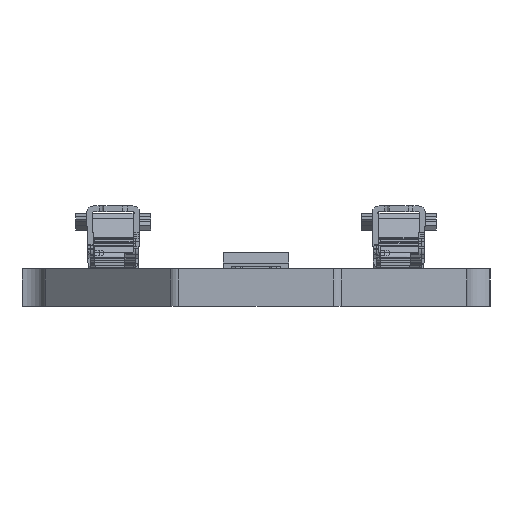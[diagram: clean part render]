
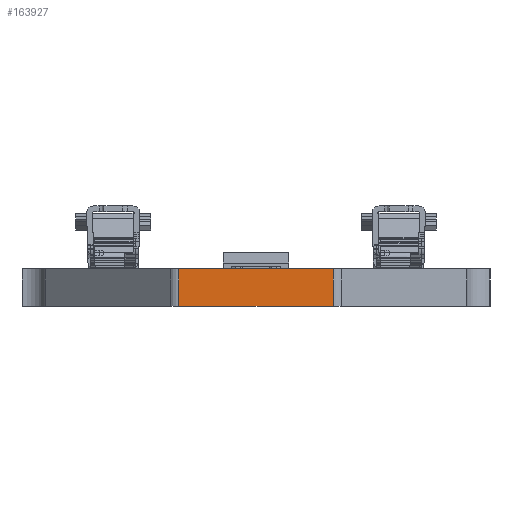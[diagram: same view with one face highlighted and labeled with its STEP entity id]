
A CAD part, left-side view. The second image highlights one B-rep face of the part: STEP entity #163927.
In plain terms, the highlighted planar face has unit normal (-1, 0, 0).
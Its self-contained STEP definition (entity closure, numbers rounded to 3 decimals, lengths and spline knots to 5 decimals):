
#8778=FACE_OUTER_BOUND('',#17054,.T.);
#17054=EDGE_LOOP('',(#135789,#135790,#135791,#135792));
#20873=LINE('',#225296,#40369);
#35583=LINE('',#256434,#55079);
#35584=LINE('',#256437,#55080);
#35585=LINE('',#256438,#55081);
#40369=VECTOR('',#183887,0.3937);
#55079=VECTOR('',#210679,0.3937);
#55080=VECTOR('',#210682,0.3937);
#55081=VECTOR('',#210683,0.3937);
#62644=VERTEX_POINT('',#225293);
#62645=VERTEX_POINT('',#225295);
#73031=VERTEX_POINT('',#256430);
#73033=VERTEX_POINT('',#256436);
#78830=EDGE_CURVE('',#62644,#62645,#20873,.T.);
#94352=EDGE_CURVE('',#62645,#73031,#35583,.T.);
#94353=EDGE_CURVE('',#73033,#62644,#35584,.T.);
#94354=EDGE_CURVE('',#73031,#73033,#35585,.T.);
#135789=ORIENTED_EDGE('',*,*,#94352,.F.);
#135790=ORIENTED_EDGE('',*,*,#78830,.F.);
#135791=ORIENTED_EDGE('',*,*,#94353,.F.);
#135792=ORIENTED_EDGE('',*,*,#94354,.F.);
#148549=PLANE('',#174027);
#163927=ADVANCED_FACE('',(#8778),#148549,.T.);
#174027=AXIS2_PLACEMENT_3D('',#256435,#210680,#210681);
#183887=DIRECTION('',(0.,-1.,0.));
#210679=DIRECTION('',(0.,0.,-1.));
#210680=DIRECTION('center_axis',(-1.,0.,0.));
#210681=DIRECTION('ref_axis',(0.,1.,0.));
#210682=DIRECTION('',(0.,0.,1.));
#210683=DIRECTION('',(0.,1.,0.));
#225293=CARTESIAN_POINT('',(0.,0.52334,0.));
#225295=CARTESIAN_POINT('',(0.,0.26406,0.));
#225296=CARTESIAN_POINT('',(0.,0.5315,0.));
#256430=CARTESIAN_POINT('',(0.,0.26406,-0.06299));
#256434=CARTESIAN_POINT('',(0.,0.26406,0.));
#256435=CARTESIAN_POINT('Origin',(0.,0.25591,
0.));
#256436=CARTESIAN_POINT('',(0.,0.52334,-0.06299));
#256437=CARTESIAN_POINT('',(0.,0.52334,0.));
#256438=CARTESIAN_POINT('',(0.,0.5315,-0.06299));
